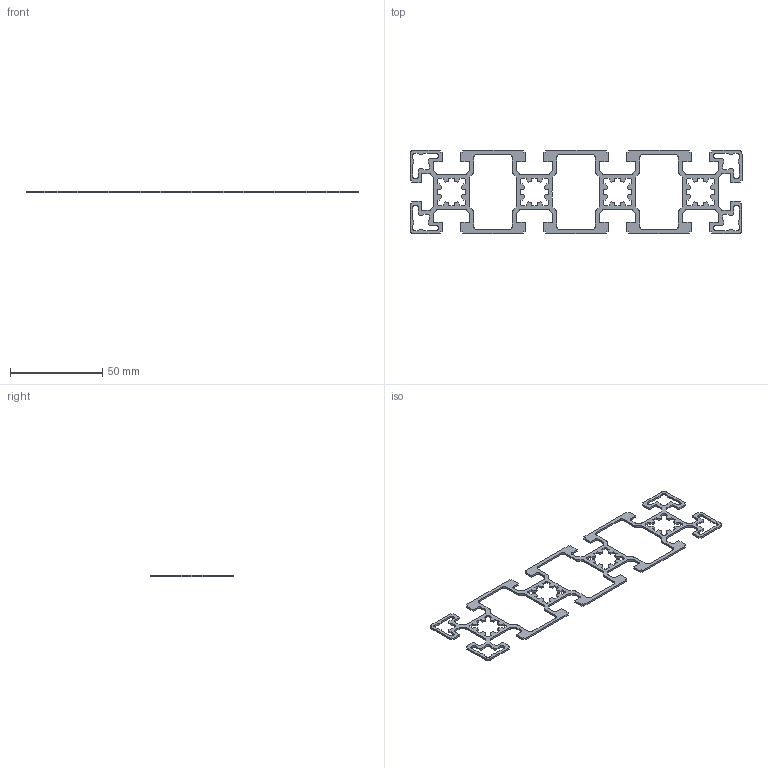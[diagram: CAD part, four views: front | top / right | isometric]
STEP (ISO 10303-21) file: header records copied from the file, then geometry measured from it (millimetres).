
FILE_DESCRIPTION(/* description */ ('Profilo 45x180 base'),/* implementation_level */ '2;1');
FILE_NAME(/* name */ 'd:\Users\daniele.berto\Desktop\PG45180.stp',/* time_stamp */ '2019-06-05T18:58:18+02:00',/* author */ ('daniele.berto'),/* organization */ (''),/* preprocessor_version */ 'ST-DEVELOPER v17.2',/* originating_system */ 'Autodesk Inventor 2019',/* authorisation */ '');
FILE_SCHEMA (('AUTOMOTIVE_DESIGN { 1 0 10303 214 3 1 1 }'));
Length unit declared in the file: millimetre
Products named in the file (1): PG45180---1,0
Bounding box: 180 x 45 x 1 mm (x, y, z)
Volume: 2141.3 mm3; surface area: 6075.5 mm2
Topology: 1 solids, 1 shells, 573 faces, 1713 edges, 1142 vertices
Faces by surface type: plane 409, cylinder 164
Entity records: 19280 total; most frequent: CARTESIAN_POINT 3429, ORIENTED_EDGE 3426, DIRECTION 3189, EDGE_CURVE 1713, LINE 1385, VECTOR 1385, VERTEX_POINT 1142, AXIS2_PLACEMENT_3D 902
